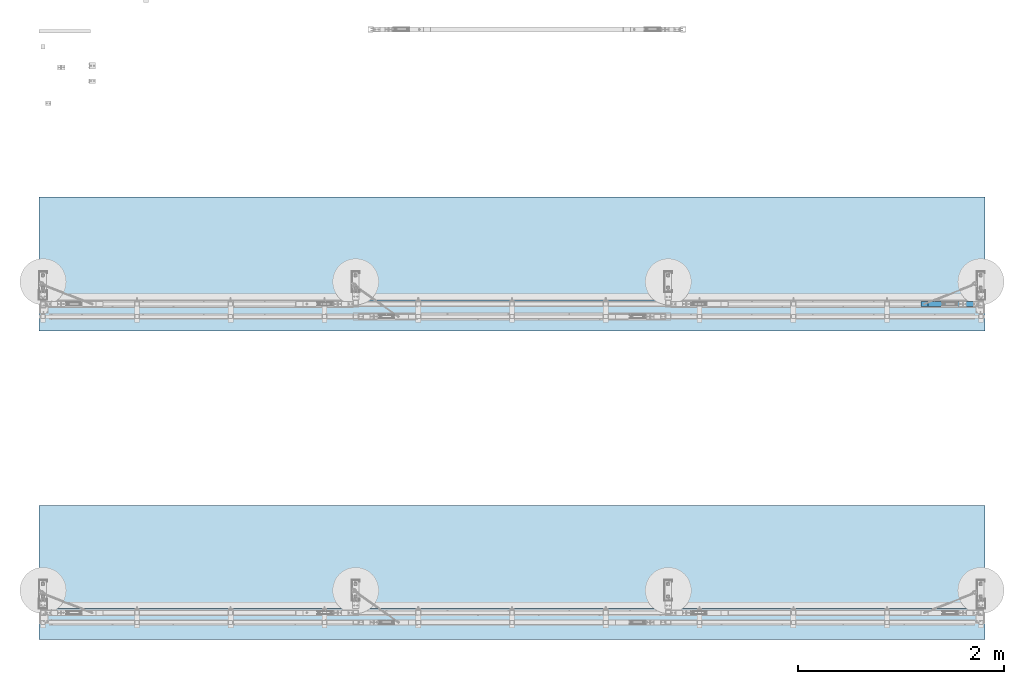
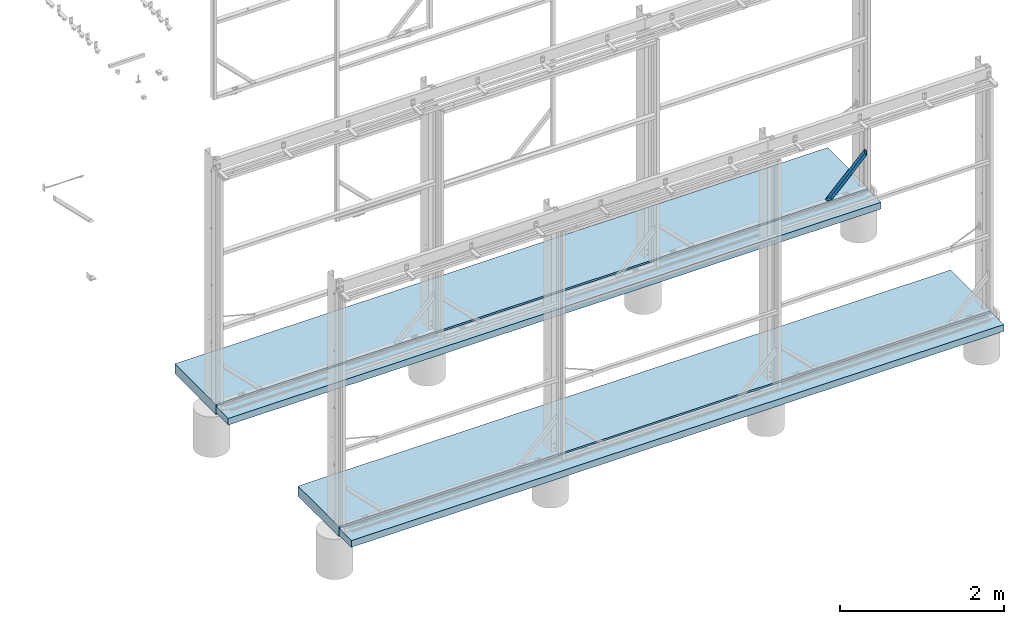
# One storey, part 9 of 91: 4 slabs, 1 beam, 5 elements without a shape of their own.
"""IFC2X3 building model written with IfcOpenShell, lengths in millimetres."""

from ifc_helpers import new_model, si_unit, frame, origin_with_axes, place, context, subcontext, project, spatial, polyline, outline, extrude, faceted_brep, material, type_object, element, aggregate, save


model = new_model("IFC2X3")

# Units and contexts
model_context = context("Model", 3, precision=1e-05, world=origin_with_axes())
body_context = subcontext(model_context, "Body", "Model", "MODEL_VIEW")
ifc_project = project(units=[si_unit("LENGTHUNIT", "METRE", prefix="MILLI"), si_unit("AREAUNIT", "SQUARE_METRE"), si_unit("VOLUMEUNIT", "CUBIC_METRE"), si_unit("MASSUNIT", "GRAM", prefix="KILO"), si_unit("TIMEUNIT", "SECOND"), si_unit("PLANEANGLEUNIT", "RADIAN"), si_unit("SOLIDANGLEUNIT", "STERADIAN"), si_unit("THERMODYNAMICTEMPERATUREUNIT", "DEGREE_CELSIUS"), si_unit("LUMINOUSINTENSITYUNIT", "LUMEN")], contexts=[model_context])

# Site, building, storey
site_placement = place(None, origin_with_axes())
site = spatial("IfcSite", under=ifc_project, at=site_placement, Name="Undefined", CompositionType="ELEMENT")
building_placement = place(site_placement, origin_with_axes())
building = spatial("IfcBuilding", under=site, at=building_placement, Name="Undefined", CompositionType="ELEMENT")
storey_placement = place(building_placement, origin_with_axes())
storey = spatial("IfcBuildingStorey", under=building, at=storey_placement, Name="Undefined", CompositionType="ELEMENT", Elevation=0.0)

# Assembly, beam
assembly_1_placement = place(storey_placement, origin_with_axes())
assembly_1 = element("IfcElementAssembly", 1, at=assembly_1_placement, inside=storey, Name="Angle Brace", AssemblyPlace="NOTDEFINED", PredefinedType="RIGID_FRAME")
ifc_material_1 = material(Name="STEEL/300PLUS")
beam_type = type_object("IfcBeamType", Name="EA50*50*3", PredefinedType="NOTDEFINED")
beam_placement = place(assembly_1_placement, frame((-108266.954935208, 87712.15, 57.9968313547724), z_axis=(0.0, 0.0, 1.0), x_axis=(1.0, 0.0, 0.0)))
beam = element("IfcBeam", 2, at=beam_placement, type_object=beam_type, material=ifc_material_1, Name="Angle Brace", ObjectType="EA50*50*3", context=body_context, shape_type="Brep", body=[
    faceted_brep([(70.7106780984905, 25.0, -24.9999999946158), (70.7106780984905, -25.0, -24.9999999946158), (1.90630089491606e-09, -25.0, -25.0), (1.90630089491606e-09, 25.0, -25.0), (558.614501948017, 25.0, 462.903808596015), (558.614501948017, -25.0, 462.903808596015), (558.614501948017, 25.0, 533.614501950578), (558.614501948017, -25.0, 533.614501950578), (555.614501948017, -25.0, 464.146449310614), (69.4680374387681, -25.0, -21.9999999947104), (2.999998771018, -25.0, -21.9999999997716), (555.614501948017, -25.0, 530.614483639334), (2.999998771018, 22.0, -21.9999999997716), (50.0000004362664, 22.0, 25.0000000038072), (50.0000004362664, 25.0, 25.0000000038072), (69.4680374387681, 22.0, -21.9999999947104), (555.614501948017, 22.0, 464.146449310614), (555.614501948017, 22.0, 530.614483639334), (508.614501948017, 22.0, 483.614487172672), (508.614501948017, 25.0, 483.614487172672)], [[[0, 1, 2, 3]], [[1, 0, 4, 5]], [[5, 4, 6, 7]], [[8, 9, 10, 2, 1, 5, 7, 11]], [[2, 10, 12, 13, 14, 3]], [[9, 15, 12, 10]], [[13, 12, 15, 16, 17, 18]], [[14, 13, 18, 19]], [[4, 0, 3, 14, 19, 6]], [[18, 17, 11, 7, 6, 19]], [[16, 8, 11, 17]], [[15, 9, 8, 16]]]),
])
aggregate(assembly_1, [beam])

# Assembly, slab
assembly_2_placement = place(storey_placement, origin_with_axes())
assembly_2 = element("IfcElementAssembly", 3, at=assembly_2_placement, inside=storey, Name="SLAB", AssemblyPlace="NOTDEFINED", PredefinedType="REINFORCEMENT_UNIT")
ifc_material_2 = material(Name="CONCRETE/N40")
slab_type_1 = type_object("IfcSlabType", Name="150*1000", PredefinedType="NOTDEFINED")
slab_1_placement = place(assembly_2_placement, frame((-116833.84, 88752.1509765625, -107.0), z_axis=(0.0, 0.0, 1.0), x_axis=(0.0, -1.0, 0.0)))
slab_1 = element("IfcSlab", 4, at=slab_1_placement, type_object=slab_type_1, material=ifc_material_2, Name="SLAB", ObjectType="150*1000", PredefinedType="FLOOR", context=body_context, shape_type="SweptSolid", body=[
    extrude(outline(polyline([(0.0, 0.0), (1000.0, 0.0), (1000.0, 9188.5), (-0.000480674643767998, 9188.5), (0.0, 0.0)])), frame((0.0, 0.0, -75.0), z_axis=(0.0, 0.0, 1.0), x_axis=(1.0, 0.0, 0.0)), (0.0, 0.0, 1.0), 150.0),
])
aggregate(assembly_2, [slab_1])

assembly_3_placement = place(storey_placement, origin_with_axes())
assembly_3 = element("IfcElementAssembly", 5, at=assembly_3_placement, inside=storey, Name="SLAB", AssemblyPlace="NOTDEFINED", PredefinedType="REINFORCEMENT_UNIT")
slab_2_placement = place(assembly_3_placement, frame((-116833.84, 85752.1509765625, -107.0), z_axis=(0.0, 0.0, 1.0), x_axis=(0.0, -1.0, 0.0)))
slab_2 = element("IfcSlab", 6, at=slab_2_placement, type_object=slab_type_1, material=ifc_material_2, Name="SLAB", ObjectType="150*1000", PredefinedType="FLOOR", context=body_context, shape_type="SweptSolid", body=[
    extrude(outline(polyline([(0.0, 0.0), (1000.0, 0.0), (1000.0, 9188.5), (-0.000480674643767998, 9188.5), (0.0, 0.0)])), frame((0.0, 0.0, -75.0), z_axis=(0.0, 0.0, 1.0), x_axis=(1.0, 0.0, 0.0)), (0.0, 0.0, 1.0), 150.0),
])
aggregate(assembly_3, [slab_2])

assembly_4_placement = place(storey_placement, origin_with_axes())
assembly_4 = element("IfcElementAssembly", 7, at=assembly_4_placement, inside=storey, Name="SLAB", AssemblyPlace="NOTDEFINED", PredefinedType="REINFORCEMENT_UNIT")
slab_type_2 = type_object("IfcSlabType", Name="100*300", PredefinedType="NOTDEFINED")
slab_3_placement = place(assembly_4_placement, frame((-116833.84, 87752.1509765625, -107.0), z_axis=(0.0, 0.0, 1.0), x_axis=(0.0, -1.0, 0.0)))
slab_3 = element("IfcSlab", 8, at=slab_3_placement, type_object=slab_type_2, material=ifc_material_2, Name="SLAB", ObjectType="100*300", PredefinedType="FLOOR", context=body_context, shape_type="SweptSolid", body=[
    extrude(outline(polyline([(0.0, 0.0), (299.99951171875, 0.0), (299.99951171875, 9188.5), (-0.000480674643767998, 9188.5), (0.0, 0.0)])), frame((0.0, 0.0, -50.0), z_axis=(0.0, 0.0, 1.0), x_axis=(1.0, 0.0, 0.0)), (0.0, 0.0, 1.0), 100.0),
])
aggregate(assembly_4, [slab_3])

assembly_5_placement = place(storey_placement, origin_with_axes())
assembly_5 = element("IfcElementAssembly", 9, at=assembly_5_placement, inside=storey, Name="SLAB", AssemblyPlace="NOTDEFINED", PredefinedType="REINFORCEMENT_UNIT")
slab_4_placement = place(assembly_5_placement, frame((-116833.84, 84752.1509765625, -107.0), z_axis=(0.0, 0.0, 1.0), x_axis=(0.0, -1.0, 0.0)))
slab_4 = element("IfcSlab", 10, at=slab_4_placement, type_object=slab_type_2, material=ifc_material_2, Name="SLAB", ObjectType="100*300", PredefinedType="FLOOR", context=body_context, shape_type="SweptSolid", body=[
    extrude(outline(polyline([(0.0, 0.0), (299.99951171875, 0.0), (299.99951171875, 9188.5), (-0.000480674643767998, 9188.5), (0.0, 0.0)])), frame((0.0, 0.0, -50.0), z_axis=(0.0, 0.0, 1.0), x_axis=(1.0, 0.0, 0.0)), (0.0, 0.0, 1.0), 100.0),
])
aggregate(assembly_5, [slab_4])

save(model, "model.ifc")
